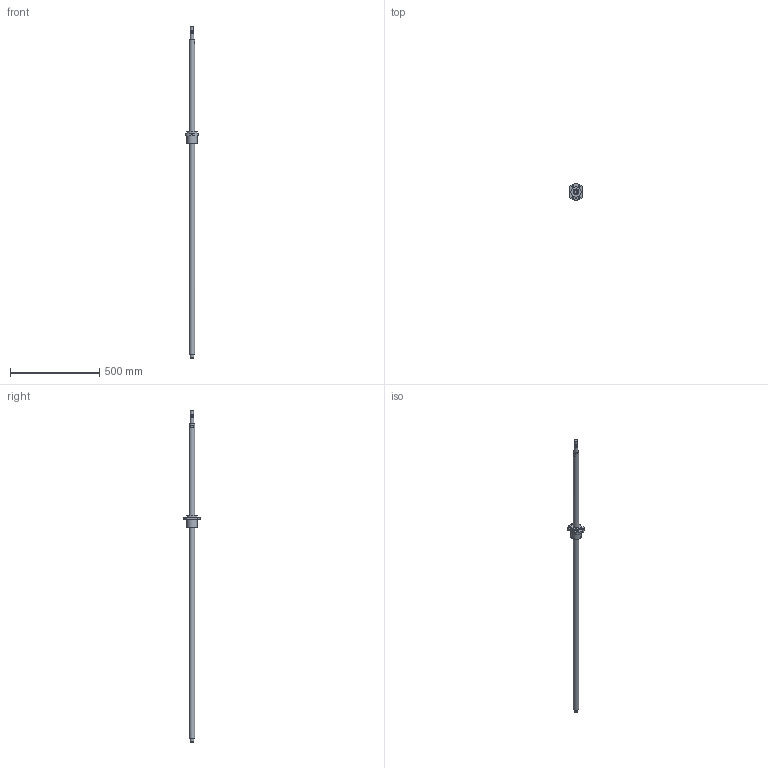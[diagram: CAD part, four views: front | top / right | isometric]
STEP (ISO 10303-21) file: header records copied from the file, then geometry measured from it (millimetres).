
FILE_DESCRIPTION(/* description */ (''),/* implementation_level */ '2;1');
FILE_NAME(/* name */ 'BSG469_asm1.stp',/* time_stamp */ '2017-01-14T09:26:57+08:00',/* author */ (''),/* organization */ (''),/* preprocessor_version */ 'ST-DEVELOPER v15',/* originating_system */ 'SIEMENS PLM Software NX 8.5',/* authorisation */ '');
FILE_SCHEMA (('AUTOMOTIVE_DESIGN { 1 0 10303 214 3 1 1 1 }'));
Length unit declared in the file: millimetre
Products named in the file (3): 01; BSG469; BSG469_asm1
Assembly tree (2 placements, depth 2):
  BSG469_asm1
    BSG469
    01
Bounding box: 68 x 92 x 1860 mm (x, y, z)
Volume: 1612864.7 mm3; surface area: 218274.7 mm2
Topology: 2 solids, 2 shells, 72 faces, 185 edges, 126 vertices
Faces by surface type: plane 41, cylinder 29, bspline 2
Full cylindrical faces by diameter (mm): 4.5 x4, 5 x1, 6 x1, 9 x4, 17 x1, 19 x1, 20 x8, 32 x2, 58 x2
Entity records: 3391 total; most frequent: CARTESIAN_POINT 1865, DIRECTION 310, ORIENTED_EDGE 260, EDGE_CURVE 130, AXIS2_PLACEMENT_3D 125, EDGE_LOOP 107, VERTEX_POINT 97, FACE_BOUND 71
